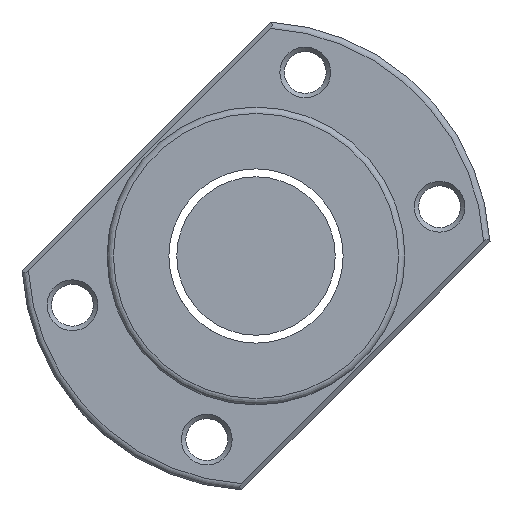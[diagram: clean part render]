
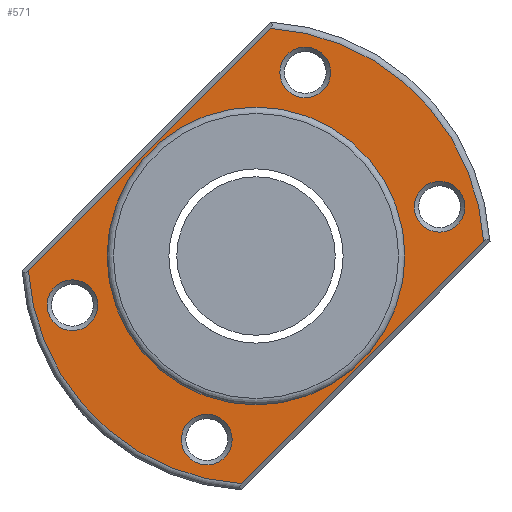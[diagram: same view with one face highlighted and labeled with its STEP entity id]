
A CAD part, left-side view. The second image highlights one B-rep face of the part: STEP entity #571.
In plain terms, the highlighted planar face has unit normal (-1, 0, 0).
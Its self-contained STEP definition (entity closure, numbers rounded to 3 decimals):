
#23 = ORIENTED_EDGE ( 'NONE', *, *, #1208, .T. ) ;
#43 = LINE ( 'NONE', #1161, #2700 ) ;
#72 = FACE_BOUND ( 'NONE', #338, .T. ) ;
#89 = PLANE ( 'NONE',  #301 ) ;
#111 = CARTESIAN_POINT ( 'NONE',  ( -43., 7.765, -28.978 ) ) ;
#115 = CARTESIAN_POINT ( 'NONE',  ( -43., 0., 0. ) ) ;
#127 = CIRCLE ( 'NONE', #617, 36. ) ;
#233 = AXIS2_PLACEMENT_3D ( 'NONE', #115, #1531, #333 ) ;
#250 = EDGE_CURVE ( 'NONE', #777, #777, #798, .T. ) ;
#288 = CARTESIAN_POINT ( 'NONE',  ( -43., 37., 0. ) ) ;
#301 = AXIS2_PLACEMENT_3D ( 'NONE', #288, #958, #1191 ) ;
#311 = AXIS2_PLACEMENT_3D ( 'NONE', #682, #2313, #3000 ) ;
#333 = DIRECTION ( 'NONE',  ( 0., 0., -1. ) ) ;
#338 = EDGE_LOOP ( 'NONE', ( #23 ) ) ;
#356 = CIRCLE ( 'NONE', #2050, 4. ) ;
#370 = VERTEX_POINT ( 'NONE', #2923 ) ;
#384 = VERTEX_POINT ( 'NONE', #2482 ) ;
#391 = DIRECTION ( 'NONE',  ( 0., 0., 1. ) ) ;
#483 = DIRECTION ( 'NONE',  ( 0., 0., 1. ) ) ;
#515 = ORIENTED_EDGE ( 'NONE', *, *, #2318, .T. ) ;
#571 = ADVANCED_FACE ( 'NONE', ( #72, #2617, #2861, #988, #1504, #2631 ), #89, .T. ) ;
#609 = CARTESIAN_POINT ( 'NONE',  ( -43., -7.765, 28.978 ) ) ;
#617 = AXIS2_PLACEMENT_3D ( 'NONE', #1730, #1076, #1043 ) ;
#682 = CARTESIAN_POINT ( 'NONE',  ( -43., -28.978, 7.765 ) ) ;
#725 = DIRECTION ( 'NONE',  ( 0., 0.707, -0.707 ) ) ;
#745 = ORIENTED_EDGE ( 'NONE', *, *, #250, .T. ) ;
#776 = VERTEX_POINT ( 'NONE', #2598 ) ;
#777 = VERTEX_POINT ( 'NONE', #2178 ) ;
#798 = CIRCLE ( 'NONE', #311, 4. ) ;
#906 = DIRECTION ( 'NONE',  ( 0., 0., 1. ) ) ;
#958 = DIRECTION ( 'NONE',  ( -1., 0., 0. ) ) ;
#988 = FACE_BOUND ( 'NONE', #2842, .T. ) ;
#1000 = ORIENTED_EDGE ( 'NONE', *, *, #1409, .T. ) ;
#1033 = ORIENTED_EDGE ( 'NONE', *, *, #2652, .T. ) ;
#1042 = DIRECTION ( 'NONE',  ( 1., 0., 0. ) ) ;
#1043 = DIRECTION ( 'NONE',  ( 0., 0., 1. ) ) ;
#1076 = DIRECTION ( 'NONE',  ( -1., 0., 0. ) ) ;
#1083 = CIRCLE ( 'NONE', #2823, 4. ) ;
#1157 = CARTESIAN_POINT ( 'NONE',  ( -43., 28.978, -7.765 ) ) ;
#1161 = CARTESIAN_POINT ( 'NONE',  ( -43., 1.671, -35.329 ) ) ;
#1191 = DIRECTION ( 'NONE',  ( 0., 0., 1. ) ) ;
#1204 = LINE ( 'NONE', #2127, #2197 ) ;
#1208 = EDGE_CURVE ( 'NONE', #1358, #1358, #356, .T. ) ;
#1285 = VERTEX_POINT ( 'NONE', #1744 ) ;
#1302 = AXIS2_PLACEMENT_3D ( 'NONE', #2086, #1887, #1635 ) ;
#1327 = EDGE_LOOP ( 'NONE', ( #1000 ) ) ;
#1344 = CARTESIAN_POINT ( 'NONE',  ( -43., 7.765, -24.978 ) ) ;
#1358 = VERTEX_POINT ( 'NONE', #1344 ) ;
#1396 = CIRCLE ( 'NONE', #1302, 36. ) ;
#1409 = EDGE_CURVE ( 'NONE', #384, #384, #1083, .T. ) ;
#1420 = DIRECTION ( 'NONE',  ( 1., 0., 0. ) ) ;
#1504 = FACE_BOUND ( 'NONE', #1901, .T. ) ;
#1531 = DIRECTION ( 'NONE',  ( 1., 0., 0. ) ) ;
#1561 = EDGE_LOOP ( 'NONE', ( #745 ) ) ;
#1569 = EDGE_CURVE ( 'NONE', #370, #370, #2974, .T. ) ;
#1635 = DIRECTION ( 'NONE',  ( 0., 0., 1. ) ) ;
#1721 = EDGE_CURVE ( 'NONE', #776, #2644, #1204, .T. ) ;
#1730 = CARTESIAN_POINT ( 'NONE',  ( -43., 0., 0. ) ) ;
#1744 = CARTESIAN_POINT ( 'NONE',  ( -43., -35.928, 2.27 ) ) ;
#1767 = CARTESIAN_POINT ( 'NONE',  ( -43., 0., -23.5 ) ) ;
#1887 = DIRECTION ( 'NONE',  ( -1., 0., 0. ) ) ;
#1888 = EDGE_CURVE ( 'NONE', #2253, #2253, #2865, .T. ) ;
#1901 = EDGE_LOOP ( 'NONE', ( #2264 ) ) ;
#2050 = AXIS2_PLACEMENT_3D ( 'NONE', #111, #1042, #391 ) ;
#2080 = ORIENTED_EDGE ( 'NONE', *, *, #2724, .T. ) ;
#2086 = CARTESIAN_POINT ( 'NONE',  ( -43., 0., 0. ) ) ;
#2127 = CARTESIAN_POINT ( 'NONE',  ( -43., 35.329, -1.671 ) ) ;
#2132 = DIRECTION ( 'NONE',  ( 0., -0.707, 0.707 ) ) ;
#2146 = ORIENTED_EDGE ( 'NONE', *, *, #1721, .T. ) ;
#2178 = CARTESIAN_POINT ( 'NONE',  ( -43., -28.978, 11.765 ) ) ;
#2197 = VECTOR ( 'NONE', #725, 1000. ) ;
#2253 = VERTEX_POINT ( 'NONE', #1767 ) ;
#2264 = ORIENTED_EDGE ( 'NONE', *, *, #1888, .T. ) ;
#2313 = DIRECTION ( 'NONE',  ( 1., 0., 0. ) ) ;
#2318 = EDGE_CURVE ( 'NONE', #2644, #2603, #127, .T. ) ;
#2441 = AXIS2_PLACEMENT_3D ( 'NONE', #1157, #1420, #483 ) ;
#2474 = CARTESIAN_POINT ( 'NONE',  ( -43., 35.928, -2.27 ) ) ;
#2482 = CARTESIAN_POINT ( 'NONE',  ( -43., -7.765, 32.978 ) ) ;
#2524 = DIRECTION ( 'NONE',  ( 1., 0., 0. ) ) ;
#2598 = CARTESIAN_POINT ( 'NONE',  ( -43., -2.27, 35.928 ) ) ;
#2603 = VERTEX_POINT ( 'NONE', #2988 ) ;
#2617 = FACE_BOUND ( 'NONE', #1561, .T. ) ;
#2628 = EDGE_LOOP ( 'NONE', ( #2146, #515, #1033, #2080 ) ) ;
#2631 = FACE_OUTER_BOUND ( 'NONE', #2628, .T. ) ;
#2644 = VERTEX_POINT ( 'NONE', #2474 ) ;
#2652 = EDGE_CURVE ( 'NONE', #2603, #1285, #43, .T. ) ;
#2700 = VECTOR ( 'NONE', #2132, 1000. ) ;
#2724 = EDGE_CURVE ( 'NONE', #1285, #776, #1396, .T. ) ;
#2823 = AXIS2_PLACEMENT_3D ( 'NONE', #609, #2524, #906 ) ;
#2842 = EDGE_LOOP ( 'NONE', ( #2994 ) ) ;
#2861 = FACE_BOUND ( 'NONE', #1327, .T. ) ;
#2865 = CIRCLE ( 'NONE', #233, 23.5 ) ;
#2923 = CARTESIAN_POINT ( 'NONE',  ( -43., 28.978, -3.765 ) ) ;
#2974 = CIRCLE ( 'NONE', #2441, 4. ) ;
#2988 = CARTESIAN_POINT ( 'NONE',  ( -43., 2.27, -35.928 ) ) ;
#2994 = ORIENTED_EDGE ( 'NONE', *, *, #1569, .T. ) ;
#3000 = DIRECTION ( 'NONE',  ( 0., 0., 1. ) ) ;
